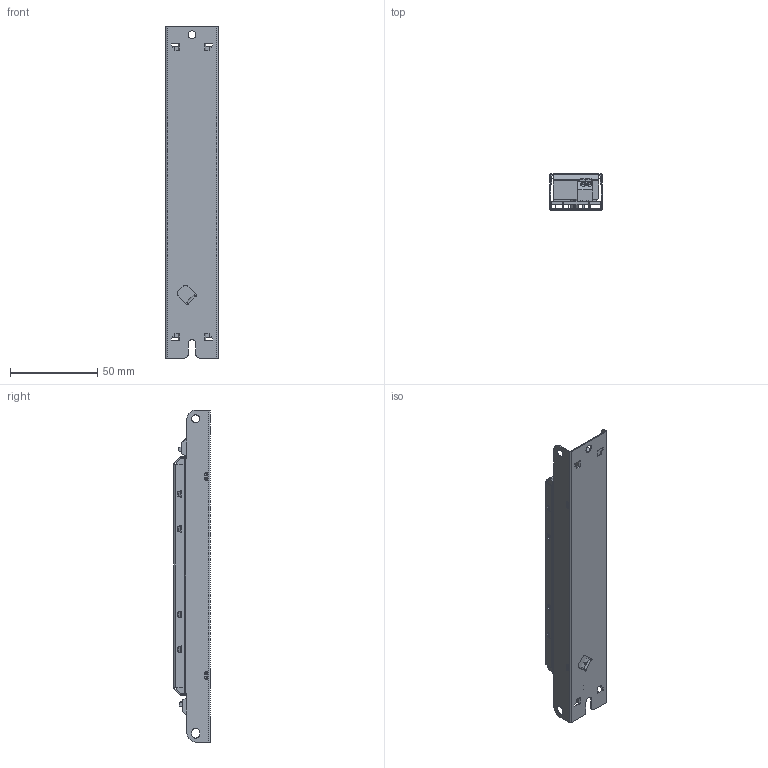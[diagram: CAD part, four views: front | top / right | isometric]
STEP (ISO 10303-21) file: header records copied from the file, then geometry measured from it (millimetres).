
FILE_DESCRIPTION((''),'2;1');
FILE_NAME('3D-35W_ASM','2023-05-23T',('Arbiter.he'),(''),'PRO/ENGINEER BY PARAMETRIC TECHNOLOGY CORPORATION, 2010280','PRO/ENGINEER BY PARAMETRIC TECHNOLOGY CORPORATION, 2010280','');
FILE_SCHEMA(('CONFIG_CONTROL_DESIGN'));
Length unit declared in the file: millimetre
Products named in the file (8): 190_1_1; 3N-DUANZITAI_1; 190MM_ASM_1_ASM_ASM_ASM; 2N-DUANZITAI_1; 190MM_ASM_ASM_ASM_ASM; 190MM_ASM_ASM_ASM; BOMA-2; 3D-35W_ASM
Assembly tree (7 placements, depth 5):
  3D-35W_ASM
    190MM_ASM_ASM_ASM
      190MM_ASM_ASM_ASM_ASM
        190MM_ASM_1_ASM_ASM_ASM
          190_1_1
          3N-DUANZITAI_1
        2N-DUANZITAI_1
    BOMA-2
Bounding box: 30 x 20.8 x 190 mm (x, y, z)
Volume: 2786.2 mm3; surface area: 48364.1 mm2
Topology: 3 solids, 6 shells, 1033 faces, 2729 edges, 1735 vertices
Faces by surface type: plane 552, cylinder 306, bspline 118, extrusion 36, cone 11, torus 10
Entity records: 38299 total; most frequent: CARTESIAN_POINT 13353, ORIENTED_EDGE 5458, DIRECTION 4651, EDGE_CURVE 2729, VECTOR 1857, LINE 1821, VERTEX_POINT 1735, AXIS2_PLACEMENT_3D 1397
